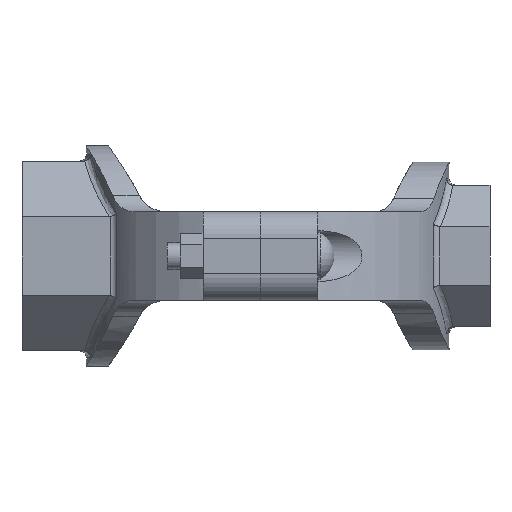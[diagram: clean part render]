
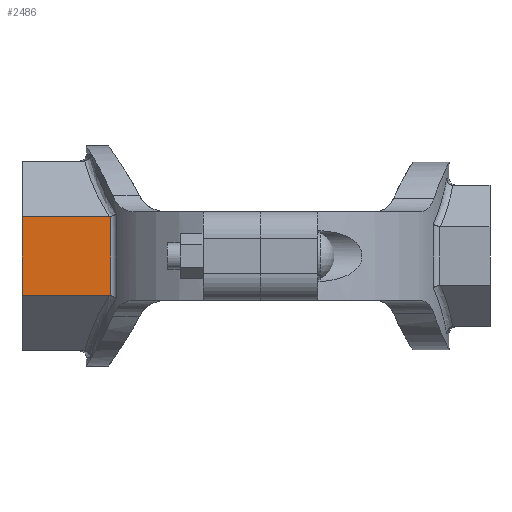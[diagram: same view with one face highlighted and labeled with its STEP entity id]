
A CAD part, left-side view. The second image highlights one B-rep face of the part: STEP entity #2486.
In plain terms, the highlighted planar face has unit normal (-1, 0, 0) as drawn and (1, 0, 0) by its records, which use the part's own axes.
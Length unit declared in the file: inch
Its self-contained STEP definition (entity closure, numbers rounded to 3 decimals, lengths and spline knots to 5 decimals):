
#53=B_SPLINE_CURVE_WITH_KNOTS('',3,(#3634,#3635,#3636,#3637),
 .UNSPECIFIED.,.F.,.F.,(4,4),(0.,0.09613),.UNSPECIFIED.);
#56=B_SPLINE_CURVE_WITH_KNOTS('',3,(#3685,#3686,#3687,#3688),
 .UNSPECIFIED.,.F.,.F.,(4,4),(0.59814,0.7111),
 .UNSPECIFIED.);
#254=FACE_OUTER_BOUND('',#397,.T.);
#397=EDGE_LOOP('',(#1840,#1841,#1842,#1843,#1844,#1845));
#498=LINE('',#3704,#684);
#509=LINE('',#3830,#695);
#574=LINE('',#4356,#760);
#575=LINE('',#4358,#761);
#684=VECTOR('',#2940,0.3937);
#695=VECTOR('',#2975,0.3937);
#760=VECTOR('',#3184,0.3937);
#761=VECTOR('',#3187,0.3937);
#965=VERTEX_POINT('',#3631);
#966=VERTEX_POINT('',#3633);
#970=VERTEX_POINT('',#3673);
#971=VERTEX_POINT('',#3684);
#987=VERTEX_POINT('',#3829);
#1066=VERTEX_POINT('',#4354);
#1211=EDGE_CURVE('',#965,#966,#53,.T.);
#1216=EDGE_CURVE('',#970,#971,#56,.T.);
#1219=EDGE_CURVE('',#970,#966,#498,.T.);
#1243=EDGE_CURVE('',#971,#987,#509,.T.);
#1356=EDGE_CURVE('',#965,#1066,#574,.T.);
#1357=EDGE_CURVE('',#987,#1066,#575,.T.);
#1840=ORIENTED_EDGE('',*,*,#1219,.T.);
#1841=ORIENTED_EDGE('',*,*,#1211,.F.);
#1842=ORIENTED_EDGE('',*,*,#1356,.T.);
#1843=ORIENTED_EDGE('',*,*,#1357,.F.);
#1844=ORIENTED_EDGE('',*,*,#1243,.F.);
#1845=ORIENTED_EDGE('',*,*,#1216,.F.);
#2255=PLANE('',#2734);
#2486=ADVANCED_FACE('',(#254),#2255,.T.);
#2734=AXIS2_PLACEMENT_3D('',#4357,#3185,#3186);
#2940=DIRECTION('',(0.,0.,-1.));
#2975=DIRECTION('',(0.,1.,0.));
#3184=DIRECTION('',(0.,1.,0.));
#3185=DIRECTION('center_axis',(1.,0.,0.));
#3186=DIRECTION('ref_axis',(0.,0.,-1.));
#3187=DIRECTION('',(0.,0.,-1.));
#3631=CARTESIAN_POINT('',(2.6875,4.28117,-1.1132));
#3633=CARTESIAN_POINT('',(2.6875,4.24397,-1.11782));
#3634=CARTESIAN_POINT('Ctrl Pts',(2.6875,4.28117,-1.1132));
#3635=CARTESIAN_POINT('Ctrl Pts',(2.6875,4.26855,-1.1132));
#3636=CARTESIAN_POINT('Ctrl Pts',(2.6875,4.25605,-1.11466));
#3637=CARTESIAN_POINT('Ctrl Pts',(2.6875,4.24397,-1.11782));
#3673=CARTESIAN_POINT('',(2.6875,4.24397,1.11782));
#3684=CARTESIAN_POINT('',(2.6875,4.28117,1.1132));
#3685=CARTESIAN_POINT('Ctrl Pts',(2.6875,4.24397,1.11782));
#3686=CARTESIAN_POINT('Ctrl Pts',(2.6875,4.25605,1.11466));
#3687=CARTESIAN_POINT('Ctrl Pts',(2.6875,4.26855,1.1132));
#3688=CARTESIAN_POINT('Ctrl Pts',(2.6875,4.28117,1.1132));
#3704=CARTESIAN_POINT('',(2.6875,4.24397,0.));
#3829=CARTESIAN_POINT('',(2.6875,6.75,1.1132));
#3830=CARTESIAN_POINT('',(2.6875,0.,1.1132));
#4354=CARTESIAN_POINT('',(2.6875,6.75,-1.1132));
#4356=CARTESIAN_POINT('',(2.6875,0.,-1.1132));
#4357=CARTESIAN_POINT('Origin',(2.6875,0.,1.1132));
#4358=CARTESIAN_POINT('',(2.6875,6.75,-1.1132));
